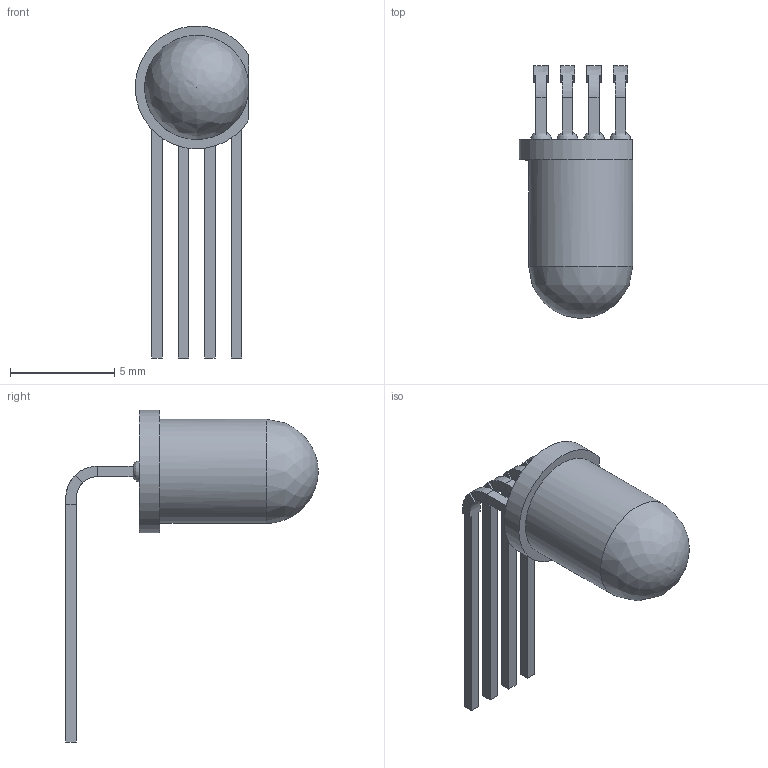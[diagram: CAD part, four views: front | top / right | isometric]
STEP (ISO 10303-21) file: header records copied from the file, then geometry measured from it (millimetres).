
FILE_DESCRIPTION(/* description */ (''),/* implementation_level */ '2;1');
FILE_NAME(/* name */ 'LED8A4~1',/* time_stamp */ '2022-11-08T16:31:27+01:00',/* author */ (''),/* organization */ (''),/* preprocessor_version */ 'ST-DEVELOPER v16.5',/* originating_system */ '',/* authorisation */ '');
FILE_SCHEMA (('AUTOMOTIVE_DESIGN'));
Length unit declared in the file: millimetre
Products named in the file (1): Document
Bounding box: 5.45 x 12.12 x 15.95 mm (x, y, z)
Volume: 160.1 mm3; surface area: 315.5 mm2
Topology: 1 solids, 6 shells, 80 faces, 205 edges, 131 vertices
Faces by surface type: plane 48, bspline 29, cylinder 3
Full cylindrical faces by diameter (mm): 5 x1
Entity records: 4901 total; most frequent: CARTESIAN_POINT 3492, ORIENTED_EDGE 383, EDGE_CURVE 200, B_SPLINE_CURVE_WITH_KNOTS 179, VERTEX_POINT 131, EDGE_LOOP 84, ADVANCED_FACE 80, FACE_OUTER_BOUND 80
